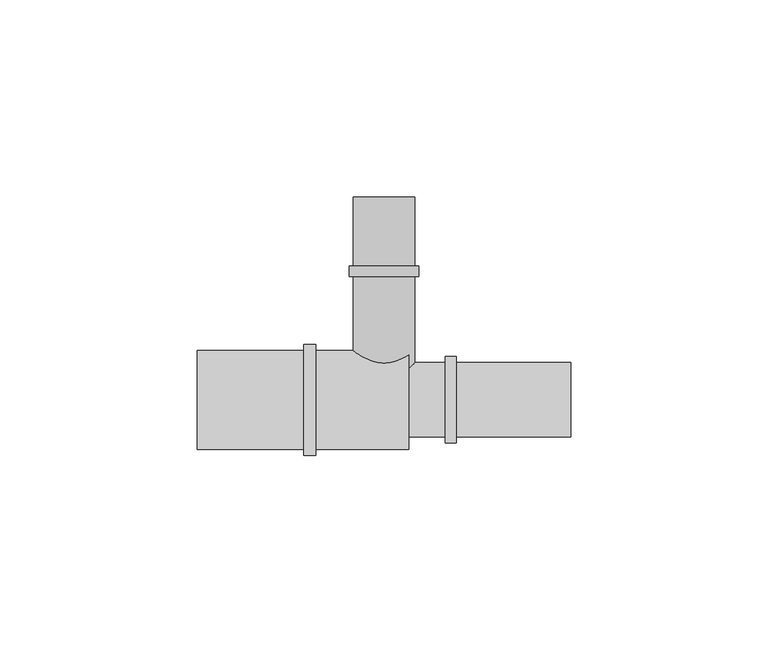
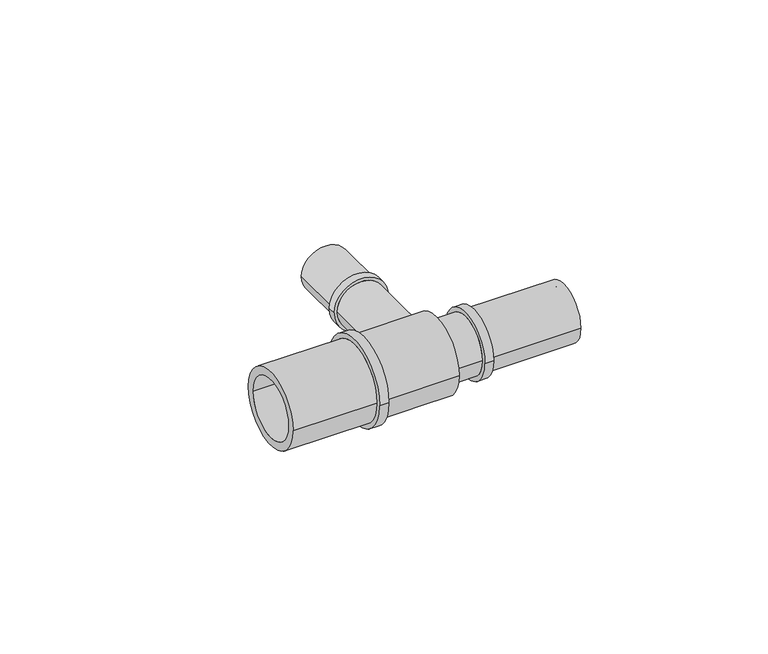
"""IFC4 building model written with IfcOpenShell, lengths in millimetres: pipe fitting geometry, FASTLOC_T-piece_LX : FSL T-Piece LX PL."""

from ifc_helpers import new_model, si_unit, frame, origin, place, context, project, spatial, polyline, circle_curve, source, transform, mapped, element, save
from ifc_brep_helpers import plane_surface, cylinder_surface, revolved_surface, advanced_brep


def pipe_fitting_67572bd9(model_context):
    return source(origin(), model_context, "Body", "AdvancedBrep", [
        advanced_brep(
        [(5.75, 51.4, 0.0), (-5.75, 51.4, 0.0), (-5.75, 0.0, 0.0), (5.75, 0.0, 0.0), (7.75, 0.0, 0.0), (-7.75, 0.0, 0.0), (-7.75, 31.33, 0.0), (7.75, 31.33, 0.0), (8.8, 31.33, 0.0), (-8.8, 31.33, 0.0), (-8.8, 34.0, 0.0), (8.8, 34.0, 0.0), (7.75, 34.0, 0.0), (-7.75, 34.0, 0.0), (-7.75, 51.4, 0.0), (7.75, 51.4, 0.0)],
        [
            (0, 1, circle_curve(frame((0.0, 51.4, 0.0), z_axis=(0.0, 1.0, 0.0), x_axis=(-1.0, 0.0, 0.0)), 5.75)),
            (1, 2),
            (2, 3, circle_curve(frame((0.0, 0.0, 0.0), z_axis=(0.0, -1.0, 0.0), x_axis=(-1.0, 0.0, 0.0)), 5.75)),
            (3, 0),
            (4, 5, circle_curve(frame((0.0, 0.0, 0.0), z_axis=(0.0, 1.0, 0.0), x_axis=(-1.0, 0.0, 0.0)), 7.75)),
            (5, 6),
            (6, 7, circle_curve(frame((0.0, 31.33, 0.0), z_axis=(0.0, -1.0, 0.0), x_axis=(-1.0, 0.0, 0.0)), 7.75)),
            (7, 4),
            (8, 9, circle_curve(frame((0.0, 31.33, 0.0), z_axis=(0.0, 1.0, 0.0), x_axis=(-1.0, 0.0, 0.0)), 8.8)),
            (9, 10),
            (10, 11, circle_curve(frame((0.0, 34.0, 0.0), z_axis=(0.0, -1.0, 0.0), x_axis=(-1.0, 0.0, 0.0)), 8.8)),
            (11, 8),
            (12, 13, circle_curve(frame((0.0, 34.0, 0.0), z_axis=(0.0, 1.0, 0.0), x_axis=(-1.0, 0.0, 0.0)), 7.75)),
            (13, 14),
            (14, 15, circle_curve(frame((0.0, 51.4, 0.0), z_axis=(0.0, -1.0, 0.0), x_axis=(-1.0, 0.0, 0.0)), 7.75)),
            (15, 12),
            (1, 0, circle_curve(frame((0.0, 51.4, 0.0), z_axis=(0.0, 1.0, 0.0), x_axis=(1.0, 0.0, 0.0)), 5.75)),
            (3, 2, circle_curve(frame((0.0, 0.0, 0.0), z_axis=(0.0, -1.0, 0.0), x_axis=(1.0, 0.0, 0.0)), 5.75)),
            (4, 5, circle_curve(frame((0.0, 0.0, 0.0), z_axis=(0.0, -1.0, 0.0), x_axis=(1.0, 0.0, 0.0)), 7.75)),
            (7, 6, circle_curve(frame((0.0, 31.33, 0.0), z_axis=(0.0, -1.0, 0.0), x_axis=(1.0, 0.0, 0.0)), 7.75)),
            (8, 9, circle_curve(frame((0.0, 31.33, 0.0), z_axis=(0.0, -1.0, 0.0), x_axis=(1.0, 0.0, 0.0)), 8.8)),
            (11, 10, circle_curve(frame((0.0, 34.0, 0.0), z_axis=(0.0, -1.0, 0.0), x_axis=(1.0, 0.0, 0.0)), 8.8)),
            (12, 13, circle_curve(frame((0.0, 34.0, 0.0), z_axis=(0.0, -1.0, 0.0), x_axis=(1.0, 0.0, 0.0)), 7.75)),
            (15, 14, circle_curve(frame((0.0, 51.4, 0.0), z_axis=(0.0, -1.0, 0.0), x_axis=(1.0, 0.0, 0.0)), 7.75)),
        ],
        [
            revolved_surface(polyline([(-5.75, 0.0, 0.0), (-5.75, 51.4, 0.0)]), (0.0, 0.0, 0.0), (0.0, -1.0, 0.0)),
            cylinder_surface(frame((0.0, 0.0, 0.0), z_axis=(0.0, -1.0, 0.0), x_axis=(-1.0, 0.0, 0.0)), 7.75),
            cylinder_surface(frame((0.0, 0.0, 0.0), z_axis=(0.0, -1.0, 0.0), x_axis=(-1.0, 0.0, 0.0)), 8.8),
            revolved_surface(polyline([(5.75, 0.0, 0.0), (5.75, 51.4, 0.0)]), (0.0, 0.0, 0.0), (0.0, -1.0, 0.0)),
            plane_surface(frame((0.0, 0.0, 0.0), z_axis=(0.0, -1.0, 0.0), x_axis=(1.0, 0.0, 0.0))),
            cylinder_surface(frame((0.0, 0.0, 0.0), z_axis=(0.0, -1.0, 0.0), x_axis=(1.0, 0.0, 0.0)), 7.75),
            plane_surface(frame((0.0, 31.33, 0.0), z_axis=(0.0, -1.0, 0.0), x_axis=(1.0, 0.0, 0.0))),
            cylinder_surface(frame((0.0, 0.0, 0.0), z_axis=(0.0, -1.0, 0.0), x_axis=(1.0, 0.0, 0.0)), 8.8),
            plane_surface(frame((0.0, 34.0, 0.0), z_axis=(0.0, 1.0, 0.0), x_axis=(1.0, 0.0, 0.0))),
            plane_surface(frame((0.0, 51.4, 0.0), z_axis=(0.0, 1.0, 0.0), x_axis=(1.0, 0.0, 0.0))),
        ],
        [
            (0, [[1, 2, 3, 4]]),
            (1, [[5, 6, 7, 8]]),
            (2, [[9, 10, 11, 12]]),
            (1, [[13, 14, 15, 16]]),
            (3, [[17, -4, 18, -2]]),
            (4, [[19, -5], [-18, -3]]),
            (5, [[-19, -8, 20, -6]]),
            (6, [[21, -9], [-20, -7]]),
            (7, [[-21, -12, 22, -10]]),
            (8, [[-22, -11], [23, -13]]),
            (5, [[-23, -16, 24, -14]]),
            (9, [[-24, -15], [-17, -1]]),
        ],
    ),
        advanced_brep(
        [(15.5, 9.45, 0.0), (15.5, -9.45, 0.0), (6.25, -9.45, 0.0), (6.25, 9.45, 0.0), (18.3, 10.95, 0.0), (18.3, -10.95, 0.0), (15.5, -10.95, 0.0), (15.5, 10.95, 0.0), (47.3, 9.45, 0.0), (47.3, -9.45, 0.0), (18.3, -9.45, 0.0), (18.3, 9.45, 0.0), (4.0, 7.2, 0.0), (4.0, -7.2, 0.0), (47.3, -7.2, 0.0), (47.3, 7.2, 0.0), (-47.3, 9.85, 0.0), (-47.3, -9.85, 0.0), (4.0, -9.85, 0.0), (4.0, 9.85, 0.0), (-20.3, 12.5, 0.0), (-20.3, -12.5, 0.0), (-47.3, -12.5, 0.0), (-47.3, 12.5, 0.0), (-17.3, 14.1, 0.0), (-17.3, -14.1, 0.0), (-20.3, -14.1, 0.0), (-20.3, 14.1, 0.0), (6.25, 12.5, 0.0), (6.25, -12.5, 0.0), (-17.3, -12.5, 0.0), (-17.3, 12.5, 0.0)],
        [
            (0, 1, circle_curve(frame((15.5, 0.0, 0.0), z_axis=(-1.0, 0.0, 0.0), x_axis=(0.0, -1.0, 0.0)), 9.45)),
            (1, 2),
            (2, 3, circle_curve(frame((6.25, 0.0, 0.0), z_axis=(1.0, 0.0, 0.0), x_axis=(0.0, -1.0, 0.0)), 9.45)),
            (3, 0),
            (4, 5, circle_curve(frame((18.3, 0.0, 0.0), z_axis=(-1.0, 0.0, 0.0), x_axis=(0.0, -1.0, 0.0)), 10.95)),
            (5, 6),
            (6, 7, circle_curve(frame((15.5, 0.0, 0.0), z_axis=(1.0, 0.0, 0.0), x_axis=(0.0, -1.0, 0.0)), 10.95)),
            (7, 4),
            (8, 9, circle_curve(frame((47.3, 0.0, 0.0), z_axis=(-1.0, 0.0, 0.0), x_axis=(0.0, -1.0, 0.0)), 9.45)),
            (9, 10),
            (10, 11, circle_curve(frame((18.3, 0.0, 0.0), z_axis=(1.0, 0.0, 0.0), x_axis=(0.0, -1.0, 0.0)), 9.45)),
            (11, 8),
            (12, 13, circle_curve(frame((4.0, 0.0, 0.0), z_axis=(-1.0, 0.0, 0.0), x_axis=(0.0, -1.0, 0.0)), 7.2)),
            (13, 14),
            (14, 15, circle_curve(frame((47.3, 0.0, 0.0), z_axis=(1.0, 0.0, 0.0), x_axis=(0.0, -1.0, 0.0)), 7.2)),
            (15, 12),
            (16, 17, circle_curve(frame((-47.3, 0.0, 0.0), z_axis=(-1.0, 0.0, 0.0), x_axis=(0.0, -1.0, 0.0)), 9.85)),
            (17, 18),
            (18, 19, circle_curve(frame((4.0, 0.0, 0.0), z_axis=(1.0, 0.0, 0.0), x_axis=(0.0, -1.0, 0.0)), 9.85)),
            (19, 16),
            (20, 21, circle_curve(frame((-20.3, 0.0, 0.0), z_axis=(-1.0, 0.0, 0.0), x_axis=(0.0, -1.0, 0.0)), 12.5)),
            (21, 22),
            (22, 23, circle_curve(frame((-47.3, 0.0, 0.0), z_axis=(1.0, 0.0, 0.0), x_axis=(0.0, -1.0, 0.0)), 12.5)),
            (23, 20),
            (24, 25, circle_curve(frame((-17.3, 0.0, 0.0), z_axis=(-1.0, 0.0, 0.0), x_axis=(0.0, -1.0, 0.0)), 14.1)),
            (25, 26),
            (26, 27, circle_curve(frame((-20.3, 0.0, 0.0), z_axis=(1.0, 0.0, 0.0), x_axis=(0.0, -1.0, 0.0)), 14.1)),
            (27, 24),
            (28, 29, circle_curve(frame((6.25, 0.0, 0.0), z_axis=(-1.0, 0.0, 0.0), x_axis=(0.0, -1.0, 0.0)), 12.5)),
            (29, 30),
            (30, 31, circle_curve(frame((-17.3, 0.0, 0.0), z_axis=(1.0, 0.0, 0.0), x_axis=(0.0, -1.0, 0.0)), 12.5)),
            (31, 28),
            (28, 29, circle_curve(frame((6.25, 0.0, 0.0), z_axis=(1.0, 0.0, 0.0), x_axis=(0.0, 1.0, 0.0)), 12.5)),
            (2, 3, circle_curve(frame((6.25, 0.0, 0.0), z_axis=(-1.0, 0.0, 0.0), x_axis=(0.0, 1.0, 0.0)), 9.45)),
            (1, 0, circle_curve(frame((15.5, 0.0, 0.0), z_axis=(-1.0, 0.0, 0.0), x_axis=(0.0, 1.0, 0.0)), 9.45)),
            (6, 7, circle_curve(frame((15.5, 0.0, 0.0), z_axis=(-1.0, 0.0, 0.0), x_axis=(0.0, 1.0, 0.0)), 10.95)),
            (5, 4, circle_curve(frame((18.3, 0.0, 0.0), z_axis=(-1.0, 0.0, 0.0), x_axis=(0.0, 1.0, 0.0)), 10.95)),
            (10, 11, circle_curve(frame((18.3, 0.0, 0.0), z_axis=(-1.0, 0.0, 0.0), x_axis=(0.0, 1.0, 0.0)), 9.45)),
            (9, 8, circle_curve(frame((47.3, 0.0, 0.0), z_axis=(-1.0, 0.0, 0.0), x_axis=(0.0, 1.0, 0.0)), 9.45)),
            (14, 15, circle_curve(frame((47.3, 0.0, 0.0), z_axis=(-1.0, 0.0, 0.0), x_axis=(0.0, 1.0, 0.0)), 7.2)),
            (13, 12, circle_curve(frame((4.0, 0.0, 0.0), z_axis=(-1.0, 0.0, 0.0), x_axis=(0.0, 1.0, 0.0)), 7.2)),
            (18, 19, circle_curve(frame((4.0, 0.0, 0.0), z_axis=(-1.0, 0.0, 0.0), x_axis=(0.0, 1.0, 0.0)), 9.85)),
            (17, 16, circle_curve(frame((-47.3, 0.0, 0.0), z_axis=(-1.0, 0.0, 0.0), x_axis=(0.0, 1.0, 0.0)), 9.85)),
            (22, 23, circle_curve(frame((-47.3, 0.0, 0.0), z_axis=(-1.0, 0.0, 0.0), x_axis=(0.0, 1.0, 0.0)), 12.5)),
            (21, 20, circle_curve(frame((-20.3, 0.0, 0.0), z_axis=(-1.0, 0.0, 0.0), x_axis=(0.0, 1.0, 0.0)), 12.5)),
            (26, 27, circle_curve(frame((-20.3, 0.0, 0.0), z_axis=(-1.0, 0.0, 0.0), x_axis=(0.0, 1.0, 0.0)), 14.1)),
            (25, 24, circle_curve(frame((-17.3, 0.0, 0.0), z_axis=(-1.0, 0.0, 0.0), x_axis=(0.0, 1.0, 0.0)), 14.1)),
            (30, 31, circle_curve(frame((-17.3, 0.0, 0.0), z_axis=(-1.0, 0.0, 0.0), x_axis=(0.0, 1.0, 0.0)), 12.5)),
        ],
        [
            cylinder_surface(frame((0.0, 0.0, 0.0), z_axis=(1.0, 0.0, 0.0), x_axis=(0.0, -1.0, 0.0)), 9.45),
            cylinder_surface(frame((0.0, 0.0, 0.0), z_axis=(1.0, 0.0, 0.0), x_axis=(0.0, -1.0, 0.0)), 10.95),
            revolved_surface(polyline([(47.3, -7.2, 0.0), (4.0, -7.2, 0.0)]), (0.0, 0.0, 0.0), (1.0, 0.0, 0.0)),
            revolved_surface(polyline([(4.0, -9.85, 0.0), (-47.3, -9.85, 0.0)]), (0.0, 0.0, 0.0), (1.0, 0.0, 0.0)),
            cylinder_surface(frame((0.0, 0.0, 0.0), z_axis=(1.0, 0.0, 0.0), x_axis=(0.0, -1.0, 0.0)), 12.5),
            cylinder_surface(frame((0.0, 0.0, 0.0), z_axis=(1.0, 0.0, 0.0), x_axis=(0.0, -1.0, 0.0)), 14.1),
            plane_surface(frame((6.25, 0.0, 0.0), z_axis=(1.0, 0.0, 0.0), x_axis=(0.0, 1.0, 0.0))),
            cylinder_surface(frame((0.0, 0.0, 0.0), z_axis=(1.0, 0.0, 0.0), x_axis=(0.0, 1.0, 0.0)), 9.45),
            plane_surface(frame((15.5, 0.0, 0.0), z_axis=(-1.0, 0.0, 0.0), x_axis=(0.0, 1.0, 0.0))),
            cylinder_surface(frame((0.0, 0.0, 0.0), z_axis=(1.0, 0.0, 0.0), x_axis=(0.0, 1.0, 0.0)), 10.95),
            plane_surface(frame((18.3, 0.0, 0.0), z_axis=(1.0, 0.0, 0.0), x_axis=(0.0, 1.0, 0.0))),
            plane_surface(frame((47.3, 0.0, 0.0), z_axis=(1.0, 0.0, 0.0), x_axis=(0.0, 1.0, 0.0))),
            revolved_surface(polyline([(47.3, 7.2, 0.0), (4.0, 7.2, 0.0)]), (0.0, 0.0, 0.0), (1.0, 0.0, 0.0)),
            plane_surface(frame((4.0, 0.0, 0.0), z_axis=(-1.0, 0.0, 0.0), x_axis=(0.0, 1.0, 0.0))),
            revolved_surface(polyline([(4.0, 9.85, 0.0), (-47.3, 9.85, 0.0)]), (0.0, 0.0, 0.0), (1.0, 0.0, 0.0)),
            plane_surface(frame((-47.3, 0.0, 0.0), z_axis=(-1.0, 0.0, 0.0), x_axis=(0.0, 1.0, 0.0))),
            cylinder_surface(frame((0.0, 0.0, 0.0), z_axis=(1.0, 0.0, 0.0), x_axis=(0.0, 1.0, 0.0)), 12.5),
            plane_surface(frame((-20.3, 0.0, 0.0), z_axis=(-1.0, 0.0, 0.0), x_axis=(0.0, 1.0, 0.0))),
            cylinder_surface(frame((0.0, 0.0, 0.0), z_axis=(1.0, 0.0, 0.0), x_axis=(0.0, 1.0, 0.0)), 14.1),
            plane_surface(frame((-17.3, 0.0, 0.0), z_axis=(1.0, 0.0, 0.0), x_axis=(0.0, 1.0, 0.0))),
        ],
        [
            (0, [[1, 2, 3, 4]]),
            (1, [[5, 6, 7, 8]]),
            (0, [[9, 10, 11, 12]]),
            (2, [[13, 14, 15, 16]]),
            (3, [[17, 18, 19, 20]]),
            (4, [[21, 22, 23, 24]]),
            (5, [[25, 26, 27, 28]]),
            (4, [[29, 30, 31, 32]]),
            (6, [[33, -29], [34, -3]]),
            (7, [[35, -4, -34, -2]]),
            (8, [[36, -7], [-35, -1]]),
            (9, [[37, -8, -36, -6]]),
            (10, [[-37, -5], [38, -11]]),
            (7, [[39, -12, -38, -10]]),
            (11, [[-39, -9], [40, -15]]),
            (12, [[41, -16, -40, -14]]),
            (13, [[42, -19], [-41, -13]]),
            (14, [[43, -20, -42, -18]]),
            (15, [[44, -23], [-43, -17]]),
            (16, [[45, -24, -44, -22]]),
            (17, [[46, -27], [-45, -21]]),
            (18, [[47, -28, -46, -26]]),
            (19, [[-47, -25], [48, -31]]),
            (16, [[-33, -32, -48, -30]]),
        ],
    ),
    ])


if __name__ == "__main__":
    model = new_model("IFC4")
    model_context = context("Model", 3, world=origin())
    ifc_project = project(units=[si_unit("LENGTHUNIT", "METRE", prefix="MILLI")], contexts=[model_context])
    site = spatial("IfcSite", under=ifc_project)
    building = spatial("IfcBuilding", under=site)
    placement = place(None, origin())
    pipe_fitting_shape = pipe_fitting_67572bd9(model_context)
    element("IfcPipeFitting", 1, ObjectType="FASTLOC_T-piece_LX : FSL T-Piece LX PL", at=placement, inside=building, context=model_context, shape_type="MappedRepresentation", body=[
        mapped(pipe_fitting_shape, transform((0.0, 0.0, 0.0), x_axis=(1.0, 0.0, 0.0), y_axis=(0.0, 1.0, 0.0), z_axis=(0.0, 0.0, 1.0))),
    ])
    save(model, "model.ifc")
